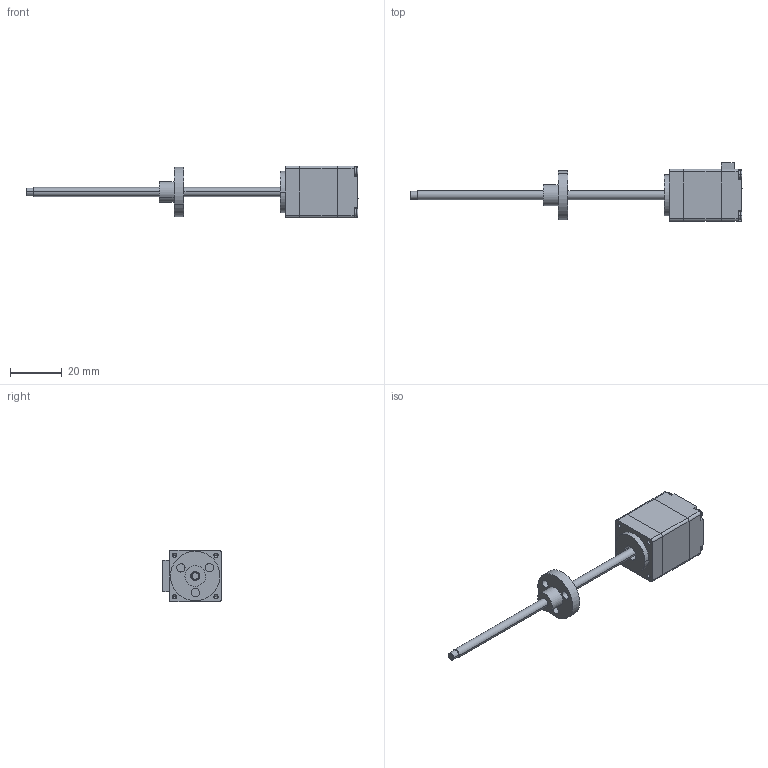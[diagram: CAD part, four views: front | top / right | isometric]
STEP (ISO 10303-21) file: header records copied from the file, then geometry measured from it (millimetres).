
FILE_DESCRIPTION (( 'STEP AP203' ), '1' );
FILE_NAME ('20SE1828-405-TR3.5x0.6096-100-01.STEP', '2022-07-04T06:01:14', ( 'USER-' ), ( 'MS' ), 'SwSTEP 2.0', 'SolidWorks 2018', '' );
FILE_SCHEMA (( 'CONFIG_CONTROL_DESIGN' ));
Length unit declared in the file: millimetre
Products named in the file (5): 葩璃 20J1830-406____^20SE1828-405-TR3.5x0.6096-100-01; 葩璃 20____01 ^20SE1828-405-TR3.5x0.6096-100-01; 葩璃 20____^20SE1828-405-TR3.5x0.6096-100-01; 20SE-TR; 20SE1828-405-TR3.5x0.6096-100-01
Assembly tree (4 placements, depth 2):
  20SE1828-405-TR3.5x0.6096-100-01
    葩璃 20____01 ^20SE1828-405-TR3.5x0.6096-100-01
    葩璃 20J1830-406____^20SE1828-405-TR3.5x0.6096-100-01
    葩璃 20____^20SE1828-405-TR3.5x0.6096-100-01
    20SE-TR
Bounding box: 128 x 22.5 x 20 mm (x, y, z)
Volume: 13574.4 mm3; surface area: 7285.9 mm2
Topology: 4 solids, 4 shells, 200 faces, 526 edges, 340 vertices
Faces by surface type: plane 110, cylinder 70, cone 10, bspline 10
Entity records: 7049 total; most frequent: CARTESIAN_POINT 1668, ORIENTED_EDGE 1036, DIRECTION 990, EDGE_CURVE 518, AXIS2_PLACEMENT_3D 349, VERTEX_POINT 340, LINE 292, VECTOR 292
